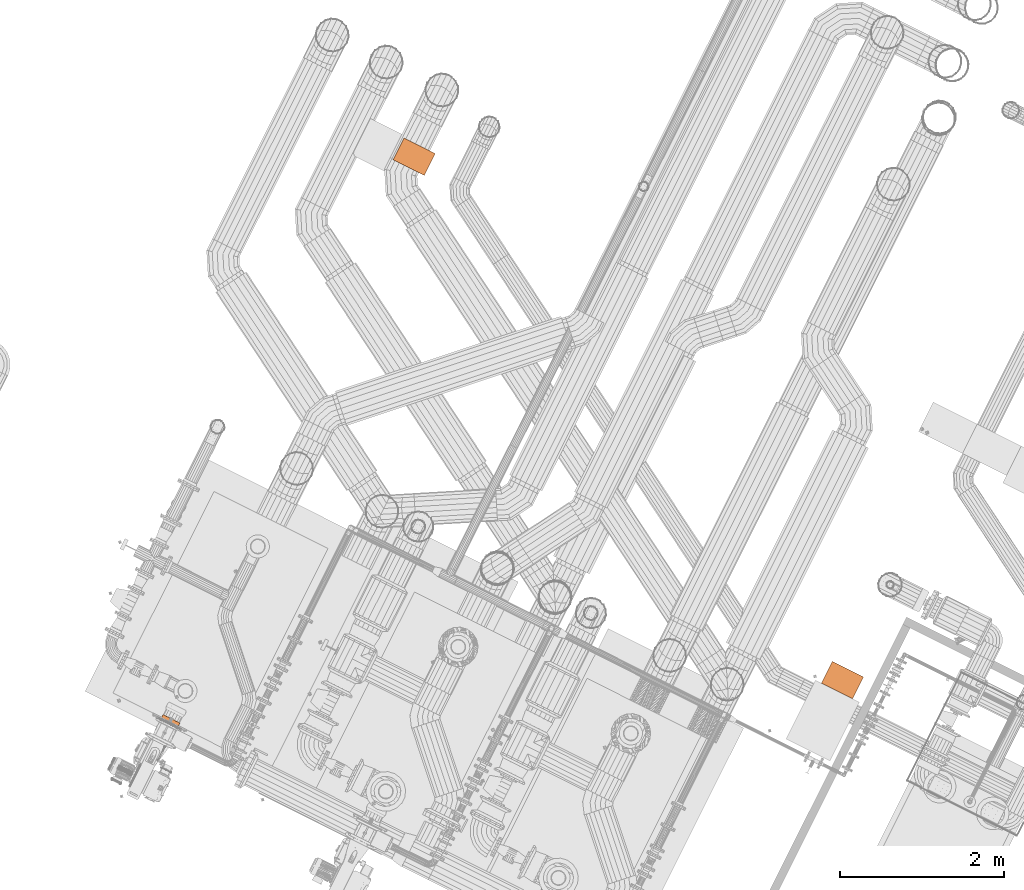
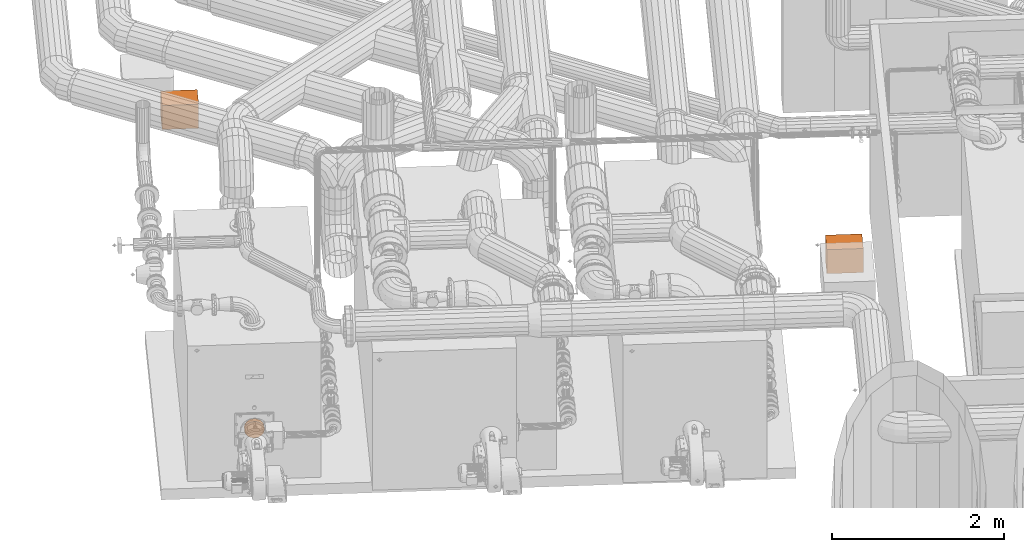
# One storey, part 191 of 206: 3 proxies.
"""IFC2X3 building model written with IfcOpenShell, lengths in metres."""

import ifcopenshell
import ifcopenshell.guid

model = None  # the IFC model being written
_history = None  # IfcOwnerHistory: only IFC2X3 demands one
_inside = {}  # id of a spatial element -> (the spatial element, [elements in it])
_under = {}  # id of a project, library or spatial element -> (it, [spatial elements below it])
_declared = {}  # id of a project -> (the project, [libraries it declares])
_typed = {}  # id of a type object -> (the type object, [elements of that type])
_made_of = {}  # id of a material, layer set ... -> (it, [elements and type objects made of it])


def new_model(schema):
    """Start an empty IFC model of exactly this schema.

    Asked for "IFC4X3", IfcOpenShell would pick the latest addendum, in which some entities
    have other attributes; the version numbers below select the first issue.
    IFC2X3 requires an IfcOwnerHistory on every rooted entity: one is made here for all.
    """
    global model, _history
    if schema == "IFC4X3":
        model = ifcopenshell.file(schema_version=(4, 3, 0, 0))
    else:
        model = ifcopenshell.file(schema=schema)
    _inside.clear()
    _under.clear()
    _declared.clear()
    _typed.clear()
    _made_of.clear()
    _history = None
    if model.schema == "IFC2X3":
        org = make("IfcOrganization", Name="unknown")
        user = make(
            "IfcPersonAndOrganization",
            ThePerson=make("IfcPerson", FamilyName="unknown"),
            TheOrganization=org,
        )
        app = make(
            "IfcApplication",
            ApplicationDeveloper=org,
            Version="unknown",
            ApplicationFullName="unknown",
            ApplicationIdentifier="unknown",
        )
        _history = make(
            "IfcOwnerHistory",
            OwningUser=user,
            OwningApplication=app,
            ChangeAction="ADDED",
            CreationDate=0,
        )
    return model


def make(cls, **values):
    """One entity of the class cls with the attributes given. An attribute that is None is left unset."""
    return model.create_entity(
        cls, **{name: value for name, value in values.items() if value is not None}
    )


def rooted(cls, **values):
    """An entity with a GlobalId (a new one), such as an element, a storey or a relation."""
    return make(cls, GlobalId=ifcopenshell.guid.new(), OwnerHistory=_history, **values)


def si_unit(unit_type, name, prefix=None):
    """IfcSIUnit, for example si_unit("LENGTHUNIT", "METRE", prefix="MILLI")."""
    return make("IfcSIUnit", UnitType=unit_type, Prefix=prefix, Name=name)


def derived_unit(unit_type, elements):
    """IfcDerivedUnit: a product of units, each with its exponent."""
    return make(
        "IfcDerivedUnit",
        Elements=[
            make("IfcDerivedUnitElement", Unit=unit, Exponent=power)
            for unit, power in elements
        ],
        UnitType=unit_type,
    )


def assignment(units):
    """IfcUnitAssignment: the units of a project."""
    return None if units is None else make("IfcUnitAssignment", Units=units)


def point(xyz):
    """IfcCartesianPoint."""
    return None if xyz is None else make("IfcCartesianPoint", Coordinates=xyz)


def direction(xyz):
    """IfcDirection."""
    return None if xyz is None else make("IfcDirection", DirectionRatios=xyz)


def frame(location, z_axis=None, x_axis=None):
    """IfcAxis2Placement3D, a coordinate frame: its origin and axes. An axis left out is left unset."""
    return make(
        "IfcAxis2Placement3D",
        Location=point(location),
        Axis=direction(z_axis),
        RefDirection=direction(x_axis),
    )


def origin():
    """The frame at (0, 0, 0) with its axes left unset."""
    return frame((0.0, 0.0, 0.0))


def place(relative_to, where):
    """IfcLocalPlacement: puts the frame where relative to a parent placement (None: the world)."""
    return make(
        "IfcLocalPlacement", PlacementRelTo=relative_to, RelativePlacement=where
    )


def context(
    kind, dimensions, precision=None, world=None, true_north=None, identifier=None
):
    """IfcGeometricRepresentationContext, for example the 3D "Model" context."""
    return make(
        "IfcGeometricRepresentationContext",
        ContextIdentifier=identifier,
        ContextType=kind,
        CoordinateSpaceDimension=dimensions,
        Precision=precision,
        WorldCoordinateSystem=world,
        TrueNorth=true_north,
    )


def subcontext(parent, identifier, kind, view, scale=None):
    """IfcGeometricRepresentationSubContext, for example "Body" below "Model"."""
    return make(
        "IfcGeometricRepresentationSubContext",
        ContextIdentifier=identifier,
        ContextType=kind,
        ParentContext=parent,
        TargetScale=scale,
        TargetView=view,
    )


def project(units=None, contexts=None):
    """IfcProject with its units and contexts."""
    return rooted(
        "IfcProject",
        Name="project",
        RepresentationContexts=contexts,
        UnitsInContext=assignment(units),
    )


def spatial(cls, under=None, at=None, **own):
    """A site, building, storey or space (cls), placed at a placement, below another one or the project."""
    s = rooted(cls, ObjectPlacement=at, **own)
    if under is not None:
        _under.setdefault(under.id(), (under, []))[1].append(s)
    return s


def faces_of(points, faces, orient=None, outer=None):
    """IfcFace entities. A face is a list of loops; a loop is a list of indices into points, from 0.

    orient and outer hold one flag for each loop. By default every Orientation is true, the
    first loop of a face is its IfcFaceOuterBound and the others are IfcFaceBound.
    """
    made = []
    for i, loops in enumerate(faces):
        bounds = []
        for j, loop in enumerate(loops):
            is_outer = j == 0 if outer is None else outer[i][j]
            bounds.append(
                make(
                    "IfcFaceOuterBound" if is_outer else "IfcFaceBound",
                    Bound=make("IfcPolyLoop", Polygon=[points[k] for k in loop]),
                    Orientation=True if orient is None else orient[i][j],
                )
            )
        made.append(make("IfcFace", Bounds=bounds))
    return made


def faceted_brep(points, faces, orient=None, outer=None, voids=None):
    """IfcFacetedBrep: a solid bounded by flat faces; with voids (closed shells), ...WithVoids."""
    shared = [point(p) for p in points]
    hull = make("IfcClosedShell", CfsFaces=faces_of(shared, faces, orient, outer))
    if voids is None:
        return make("IfcFacetedBrep", Outer=hull)
    return make(
        "IfcFacetedBrepWithVoids",
        Outer=hull,
        Voids=[
            make(cls, CfsFaces=faces_of(shared, fs, o, b)) for cls, fs, o, b in voids
        ],
    )


def shape(context_of_items, identifier, shape_type, items):
    """IfcShapeRepresentation: the items that make up one representation, for example the "Body"."""
    return make(
        "IfcShapeRepresentation",
        ContextOfItems=context_of_items,
        RepresentationIdentifier=identifier,
        RepresentationType=shape_type,
        Items=items,
    )


def source(mapping_origin, context_of_items, identifier, shape_type, items):
    """IfcRepresentationMap: a shape defined once, which mapped items show again and again."""
    return make(
        "IfcRepresentationMap",
        MappingOrigin=mapping_origin,
        MappedRepresentation=shape(context_of_items, identifier, shape_type, items),
    )


def transform(
    local_origin,
    x_axis=None,
    y_axis=None,
    z_axis=None,
    scale=None,
    scale2=None,
    scale3=None,
    uniform=True,
):
    """IfcCartesianTransformationOperator3D, or its non-uniform kind. x_axis, y_axis, z_axis: its Axis1, 2, 3."""
    if uniform:
        return make(
            "IfcCartesianTransformationOperator3D",
            Axis1=direction(x_axis),
            Axis2=direction(y_axis),
            LocalOrigin=point(local_origin),
            Scale=scale,
            Axis3=direction(z_axis),
        )
    return make(
        "IfcCartesianTransformationOperator3DnonUniform",
        Axis1=direction(x_axis),
        Axis2=direction(y_axis),
        LocalOrigin=point(local_origin),
        Scale=scale,
        Axis3=direction(z_axis),
        Scale2=scale2,
        Scale3=scale3,
    )


def mapped(mapping_source, mapping_target):
    """IfcMappedItem: shows the shape of a source again, moved by a transform."""
    return make(
        "IfcMappedItem", MappingSource=mapping_source, MappingTarget=mapping_target
    )


def material(Name=None, Category=None):
    """IfcMaterial."""
    return make("IfcMaterial", Name=Name, Category=Category)


def made_of(thing, what):
    """Note that an element or type object is made of a material, layer set ...; save() writes the relation."""
    if what is not None:
        _made_of.setdefault(what.id(), (what, []))[1].append(thing)
    return thing


def type_object(cls, material=None, **own):
    """A type object (cls), such as IfcWallType, which elements share."""
    return made_of(rooted(cls, **own), material)


def type_shapes(of_type, sources):
    """Give a type object the sources (RepresentationMaps) that its elements show as mapped items."""
    of_type.RepresentationMaps = sources


def element(
    cls,
    number,
    at=None,
    inside=None,
    cuts=None,
    type_object=None,
    material=None,
    context=None,
    identifier="Body",
    shape_type=None,
    held_by="IfcProductDefinitionShape",
    body=None,
    shapes=None,
    **own,
):
    """One element of the class cls, such as IfcWall. Its Tag is "e" and its number.

    at: its placement. inside: the storey or other place that contains it. cuts: it is an
    opening in that element (IfcRelVoidsElement). A single representation is given by context,
    identifier, shape_type and body (its items); several are given by shapes. held_by: the class
    of the entity that holds the representations. save() writes the other relations.
    """
    e = rooted(cls, Tag="e%d" % number, ObjectPlacement=at, **own)
    if body is not None:
        shapes = [shape(context, identifier, shape_type, body)]
    if shapes is not None:
        e.Representation = make(held_by, Representations=shapes)
    if inside is not None:
        _inside.setdefault(inside.id(), (inside, []))[1].append(e)
    if cuts is not None:
        rooted(
            "IfcRelVoidsElement", RelatingBuildingElement=cuts, RelatedOpeningElement=e
        )
    if type_object is not None:
        _typed.setdefault(type_object.id(), (type_object, []))[1].append(e)
    return made_of(e, material)


def aggregate(whole, parts):
    """IfcRelAggregates: a whole, such as a stair, and the parts it consists of."""
    return rooted("IfcRelAggregates", RelatingObject=whole, RelatedObjects=parts)


def save(model, path):
    """Write the relations noted so far, then the file.

    IfcRelAggregates (storeys below a building ...), IfcRelContainedInSpatialStructure (elements
    in a storey), IfcRelDefinesByType, IfcRelAssociatesMaterial and IfcRelDeclares: one each for
    every whole, place, type object, material and project.
    """
    for whole, parts in _under.values():
        aggregate(whole, parts)
    for where, things in _inside.values():
        rooted(
            "IfcRelContainedInSpatialStructure",
            RelatedElements=things,
            RelatingStructure=where,
        )
    for kind, things in _typed.values():
        rooted("IfcRelDefinesByType", RelatedObjects=things, RelatingType=kind)
    for what, things in _made_of.values():
        rooted("IfcRelAssociatesMaterial", RelatedObjects=things, RelatingMaterial=what)
    for by, libraries in _declared.values():
        rooted("IfcRelDeclares", RelatingContext=by, RelatedDefinitions=libraries)
    model.write(path)


model = new_model("IFC2X3")

# Units and contexts
model_context = context("Model", 3, precision=5.2338327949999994e-05, world=origin(), true_north=direction((0.0, 1.0)))
body_context = subcontext(model_context, "Body", "Model", "MODEL_VIEW")
ifc_project = project(units=[si_unit("LENGTHUNIT", "METRE"), si_unit("AREAUNIT", "SQUARE_METRE"), si_unit("VOLUMEUNIT", "CUBIC_METRE"), si_unit("MASSUNIT", "GRAM", prefix="KILO"), si_unit("PLANEANGLEUNIT", "RADIAN"), derived_unit("THERMALTRANSMITTANCEUNIT", [(si_unit("MASSUNIT", "GRAM", prefix="KILO"), 1), (si_unit("THERMODYNAMICTEMPERATUREUNIT", "KELVIN"), -1), (si_unit("TIMEUNIT", "SECOND"), -3)])], contexts=[model_context])

# Site, building, storey
site_placement = place(None, frame((0.0, 0.0, 0.0), z_axis=(0.0, 0.0, 1.0), x_axis=(0.8939966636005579, -0.4480736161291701, 0.0)))
site = spatial("IfcSite", under=ifc_project, at=site_placement, Name="Default", CompositionType="ELEMENT")
building_placement = place(site_placement, origin())
building = spatial("IfcBuilding", under=site, at=building_placement, CompositionType="ELEMENT")
storey_placement = place(building_placement, origin())
storey = spatial("IfcBuildingStorey", under=building, at=storey_placement, Name="Erdgeschoss", CompositionType="ELEMENT", Elevation=0.0)

# Proxies
ifc_material_1 = material(Name="IfcSurfaceStyle #649647")
building_element_proxy_type_1 = type_object("IfcBuildingElementProxyType", Name="BuildingElementProxy 123:BuildingElementProxy 123", PredefinedType="NOTDEFINED", material=ifc_material_1)
shared_shape_1 = source(origin(), body_context, "Body", "Brep", [
    faceted_brep([(21.44094787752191, 4.955958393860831, 0.9877150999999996), (21.395900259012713, 4.955958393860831, 0.9787545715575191), (21.48599549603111, 4.955958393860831, 0.978754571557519), (21.524185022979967, 4.955958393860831, 0.9532371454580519), (21.35771073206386, 4.955958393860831, 0.9532371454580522), (21.549702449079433, 4.955958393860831, 0.9150476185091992), (21.332193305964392, 4.955958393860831, 0.9150476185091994), (21.558662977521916, 4.955958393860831, 0.8699999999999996), (21.323232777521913, 4.955958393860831, 0.8699999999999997), (21.54970244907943, 4.955958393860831, 0.8249523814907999), (21.332193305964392, 4.955958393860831, 0.8249523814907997), (21.52418502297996, 4.955958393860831, 0.7867628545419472), (21.357710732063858, 4.955958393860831, 0.7867628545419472), (21.48599549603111, 4.955958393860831, 0.7612454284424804), (21.395900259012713, 4.955958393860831, 0.7612454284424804), (21.44094787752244, 4.955958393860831, 0.7522848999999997), (21.464562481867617, 5.015028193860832, 0.9836397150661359), (21.44094787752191, 5.015028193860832, 0.9860673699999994), (21.433027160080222, 5.015028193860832, 0.9857967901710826), (21.40207928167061, 5.015028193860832, 0.9793657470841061), (21.37401410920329, 5.015028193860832, 0.9648235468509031), (21.35091310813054, 5.015028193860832, 0.9432487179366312), (21.334489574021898, 5.015028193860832, 0.9162413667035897), (21.32596156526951, 5.015028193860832, 0.8858045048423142), (21.32596156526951, 5.015028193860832, 0.854195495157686), (21.334489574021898, 5.015028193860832, 0.8237586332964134), (21.350913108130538, 5.015028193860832, 0.7967512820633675), (21.374014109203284, 5.015028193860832, 0.7751764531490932), (21.402079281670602, 5.015028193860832, 0.7606342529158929), (21.43302716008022, 5.015028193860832, 0.7542032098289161), (21.440947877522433, 5.015028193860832, 0.7539326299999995), (21.464562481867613, 5.015028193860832, 0.7563602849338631), (21.494346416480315, 5.015028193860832, 0.7669454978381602), (21.520170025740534, 5.015028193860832, 0.7851737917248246), (21.540118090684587, 5.015028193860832, 0.8096932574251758), (21.552711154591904, 5.015028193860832, 0.8386853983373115), (21.556744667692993, 5.015028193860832, 0.862079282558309), (21.555934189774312, 5.015028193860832, 0.8858045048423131), (21.55031362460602, 5.015028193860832, 0.9088685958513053), (21.54011809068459, 5.015028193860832, 0.930306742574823), (21.520170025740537, 5.015028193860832, 0.954826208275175), (21.49434641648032, 5.015028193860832, 0.9730545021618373), (21.520147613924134, 5.0153258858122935, 0.9548022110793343), (21.540090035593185, 5.0153258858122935, 0.9302896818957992), (21.5398631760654, 5.016011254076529, 0.930151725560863), (21.550032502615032, 5.0160112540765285, 0.9087686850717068), (21.549565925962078, 5.016554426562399, 0.9086028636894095), (21.551947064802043, 5.016554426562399, 0.9011005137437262), (21.551313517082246, 5.016882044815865, 0.9009230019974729), (21.554496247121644, 5.016882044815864, 0.8856068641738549), (21.553954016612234, 5.01695839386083, 0.885532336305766), (21.55556378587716, 5.016882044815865, 0.869999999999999), (21.554750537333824, 5.016958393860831, 0.862215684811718), (21.55529658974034, 5.016882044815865, 0.8621783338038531), (21.55078648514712, 5.01695839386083, 0.8392246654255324), (21.551313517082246, 5.016882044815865, 0.8390769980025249), (21.538410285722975, 5.016958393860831, 0.8107317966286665), (21.538877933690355, 5.016882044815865, 0.8104474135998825), (21.518805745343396, 5.01695839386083, 0.7866345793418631), (21.519179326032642, 5.0168820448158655, 0.7862345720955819), (21.493426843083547, 5.01695839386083, 0.7687201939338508), (21.493678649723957, 5.016882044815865, 0.7682342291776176), (21.464155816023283, 5.01695839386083, 0.7583172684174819), (21.464267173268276, 5.0168820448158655, 0.7577813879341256), (21.44094787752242, 5.01695839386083, 0.75593142), (21.440947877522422, 5.016882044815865, 0.7553840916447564), (21.433163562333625, 5.016958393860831, 0.7561973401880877), (21.433126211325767, 5.0168820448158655, 0.7556512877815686), (21.402748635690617, 5.016958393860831, 0.7625176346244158), (21.40256534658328, 5.016882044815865, 0.762001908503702), (21.375166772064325, 5.01695839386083, 0.7768094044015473), (21.37485113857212, 5.0168820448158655, 0.776362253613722), (21.35246359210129, 5.016958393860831, 0.7980126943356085), (21.352039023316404, 5.0168820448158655, 0.7976672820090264), (21.336322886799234, 5.016958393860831, 0.8245549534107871), (21.33582087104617, 5.0168820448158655, 0.8243368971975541), (21.32794173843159, 5.016958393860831, 0.854467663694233), (21.327399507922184, 5.0168820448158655, 0.8543931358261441), (21.327941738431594, 5.016958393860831, 0.8855323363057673), (21.327399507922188, 5.016882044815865, 0.8856068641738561), (21.336322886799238, 5.016958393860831, 0.9154450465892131), (21.335820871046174, 5.0168820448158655, 0.915663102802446), (21.352463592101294, 5.016958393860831, 0.9419873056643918), (21.352039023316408, 5.0168820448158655, 0.942332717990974), (21.37516677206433, 5.016958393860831, 0.9631905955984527), (21.374851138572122, 5.016882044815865, 0.963637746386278), (21.402748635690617, 5.016958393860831, 0.9774823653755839), (21.402565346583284, 5.0168820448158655, 0.9779980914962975), (21.433163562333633, 5.016958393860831, 0.9838026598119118), (21.43312621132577, 5.016882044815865, 0.984348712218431), (21.44094787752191, 5.01695839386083, 0.9840685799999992), (21.44094787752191, 5.0168820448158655, 0.984615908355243), (21.464155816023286, 5.016958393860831, 0.9816827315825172), (21.46426717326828, 5.016882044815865, 0.9822186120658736), (21.49342684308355, 5.016958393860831, 0.9712798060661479), (21.493678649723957, 5.016882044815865, 0.9717657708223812), (21.518805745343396, 5.016958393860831, 0.9533654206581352), (21.519179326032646, 5.016882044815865, 0.9537654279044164), (21.53841028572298, 5.016958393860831, 0.9292682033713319), (21.538877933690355, 5.016882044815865, 0.9295525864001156), (21.5484302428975, 5.016958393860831, 0.9081992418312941), (21.54894596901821, 5.016882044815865, 0.9083825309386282), (21.494331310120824, 5.0153258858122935, 0.9730253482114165), (21.4645558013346, 5.0153258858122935, 0.9836075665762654), (21.44094787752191, 5.0153258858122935, 0.9860345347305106), (21.433029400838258, 5.0153258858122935, 0.9857640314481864), (21.40209027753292, 5.015325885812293, 0.9793348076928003), (21.374033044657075, 5.0153258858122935, 0.9647967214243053), (21.35093857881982, 5.0153258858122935, 0.9432279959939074), (21.334519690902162, 5.0153258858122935, 0.9162282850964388), (21.325994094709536, 5.0153258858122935, 0.885800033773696), (21.32599409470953, 5.0153258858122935, 0.8541999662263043), (21.334519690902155, 5.0153258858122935, 0.8237717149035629), (21.35093857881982, 5.0153258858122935, 0.7967720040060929), (21.37403304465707, 5.0153258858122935, 0.7752032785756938), (21.402090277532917, 5.0153258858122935, 0.7606651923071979), (21.433029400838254, 5.0153258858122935, 0.7542359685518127), (21.440947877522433, 5.0153258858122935, 0.7539654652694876), (21.464555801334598, 5.0153258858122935, 0.7563924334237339), (21.494331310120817, 5.0153258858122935, 0.7669746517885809), (21.52014761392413, 5.0153258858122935, 0.7851977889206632), (21.540090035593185, 5.0153258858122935, 0.809710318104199), (21.55267953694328, 5.0153258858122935, 0.8386942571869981), (21.556711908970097, 5.0153258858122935, 0.8620815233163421), (21.556982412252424, 5.0153258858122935, 0.869999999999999), (21.55644701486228, 5.016011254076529, 0.8620996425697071), (21.556716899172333, 5.016011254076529, 0.8699999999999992), (21.555953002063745, 5.0165544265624, 0.8621334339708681), (21.556221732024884, 5.016554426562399, 0.8699999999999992), (21.55028268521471, 5.0153258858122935, 0.9088575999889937), (21.552423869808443, 5.016011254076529, 0.9012341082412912), (21.555148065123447, 5.0165544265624, 0.8856964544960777), (21.55267953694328, 5.0153258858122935, 0.9013057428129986), (21.555638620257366, 5.016011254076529, 0.8857638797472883), (21.555901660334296, 5.0153258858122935, 0.8858000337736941), (21.55194706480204, 5.016554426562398, 0.8388994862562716), (21.53944009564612, 5.016554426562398, 0.8101055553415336), (21.519628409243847, 5.016554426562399, 0.7857537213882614), (21.493981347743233, 5.016554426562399, 0.7676500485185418), (21.464401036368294, 5.016554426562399, 0.7571372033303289), (21.440947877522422, 5.0165544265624, 0.7547261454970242), (21.43308131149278, 5.016554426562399, 0.7549948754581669), (21.402345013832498, 5.016554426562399, 0.7613819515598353), (21.374471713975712, 5.0165544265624, 0.7758247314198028), (21.351528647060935, 5.016554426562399, 0.7972520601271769), (21.33521739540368, 5.016554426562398, 0.824074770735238), (21.326747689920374, 5.0165544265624, 0.854303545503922), (21.326747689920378, 5.0165544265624, 0.8856964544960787), (21.335217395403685, 5.0165544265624, 0.9159252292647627), (21.351528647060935, 5.016554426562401, 0.9427479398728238), (21.374471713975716, 5.0165544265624, 0.9641752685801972), (21.4023450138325, 5.016554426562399, 0.9786180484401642), (21.433081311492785, 5.016554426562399, 0.9850051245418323), (21.44094787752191, 5.016554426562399, 0.9852738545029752), (21.464401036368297, 5.016554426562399, 0.9828627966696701), (21.49398134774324, 5.016554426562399, 0.9723499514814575), (21.519628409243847, 5.016554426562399, 0.9542462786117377), (21.539440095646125, 5.016554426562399, 0.9298944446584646), (21.552423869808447, 5.016011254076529, 0.8387658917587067), (21.539863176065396, 5.01601125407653, 0.8098482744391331), (21.51996638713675, 5.016011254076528, 0.7853918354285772), (21.494209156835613, 5.016011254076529, 0.7672103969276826), (21.46450178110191, 5.016011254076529, 0.7566523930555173), (21.440947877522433, 5.016011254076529, 0.7542309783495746), (21.433047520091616, 5.016011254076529, 0.7545008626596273), (21.402179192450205, 5.016011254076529, 0.7609153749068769), (21.37418616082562, 5.016011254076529, 0.7754201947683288), (21.35114454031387, 5.016011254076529, 0.7969395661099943), (21.33476322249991, 5.01601125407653, 0.8238774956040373), (21.32625713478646, 5.01601125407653, 0.8542361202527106), (21.326257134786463, 5.016011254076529, 0.8857638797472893), (21.334763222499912, 5.016011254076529, 0.9161225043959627), (21.351144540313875, 5.01601125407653, 0.9430604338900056), (21.374186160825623, 5.016011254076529, 0.9645798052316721), (21.40217919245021, 5.016011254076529, 0.9790846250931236), (21.433047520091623, 5.016011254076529, 0.9854991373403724), (21.44094787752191, 5.016011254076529, 0.9857690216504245), (21.46450178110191, 5.016011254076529, 0.9833476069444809), (21.494209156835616, 5.0160112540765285, 0.9727896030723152), (21.519966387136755, 5.016011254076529, 0.9546081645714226)], [[[0, 1, 2]], [[2, 1, 3]], [[1, 4, 3]], [[3, 4, 5]], [[4, 6, 5]], [[5, 6, 7]], [[6, 8, 7]], [[7, 8, 9]], [[8, 10, 9]], [[9, 10, 11]], [[10, 12, 11]], [[11, 12, 13]], [[12, 14, 13]], [[13, 14, 15]], [[16, 17, 0]], [[0, 17, 18]], [[0, 18, 19]], [[0, 19, 1]], [[1, 19, 20]], [[1, 20, 4]], [[4, 20, 21]], [[4, 21, 6]], [[6, 21, 22]], [[6, 22, 23]], [[6, 23, 8]], [[8, 23, 24]], [[8, 24, 10]], [[10, 24, 25]], [[10, 25, 26]], [[10, 26, 12]], [[12, 26, 27]], [[12, 27, 14]], [[14, 27, 28]], [[14, 28, 29]], [[14, 29, 15]], [[15, 29, 30]], [[15, 30, 31]], [[15, 31, 13]], [[13, 31, 32]], [[13, 32, 11]], [[11, 32, 33]], [[11, 33, 34]], [[11, 34, 9]], [[9, 34, 35]], [[9, 35, 7]], [[7, 35, 36]], [[7, 36, 37]], [[7, 37, 5]], [[5, 37, 38]], [[5, 38, 39]], [[5, 39, 3]], [[3, 39, 40]], [[3, 40, 41]], [[3, 41, 2]], [[2, 41, 16]], [[2, 16, 0]], [[41, 40, 42]], [[42, 40, 43]], [[42, 43, 44]], [[44, 43, 45]], [[44, 45, 46]], [[46, 45, 47]], [[46, 47, 48]], [[48, 47, 49]], [[48, 49, 50]], [[50, 49, 51]], [[50, 51, 52]], [[52, 51, 53]], [[52, 53, 54]], [[54, 53, 55]], [[54, 55, 56]], [[56, 55, 57]], [[56, 57, 58]], [[58, 57, 59]], [[58, 59, 60]], [[60, 59, 61]], [[60, 61, 62]], [[62, 61, 63]], [[62, 63, 64]], [[64, 63, 65]], [[64, 65, 66]], [[66, 65, 67]], [[66, 67, 68]], [[68, 67, 69]], [[68, 69, 70]], [[70, 69, 71]], [[70, 71, 72]], [[72, 71, 73]], [[72, 73, 74]], [[74, 73, 75]], [[74, 75, 76]], [[76, 75, 77]], [[76, 77, 78]], [[78, 77, 79]], [[78, 79, 80]], [[80, 79, 81]], [[80, 81, 82]], [[82, 81, 83]], [[82, 83, 84]], [[84, 83, 85]], [[84, 85, 86]], [[86, 85, 87]], [[86, 87, 88]], [[88, 87, 89]], [[88, 89, 90]], [[90, 89, 91]], [[90, 91, 92]], [[92, 91, 93]], [[92, 93, 94]], [[94, 93, 95]], [[94, 95, 96]], [[96, 95, 97]], [[96, 97, 98]], [[98, 97, 99]], [[98, 99, 100]], [[100, 99, 101]], [[100, 101, 48]], [[48, 101, 46]], [[50, 100, 48]], [[41, 102, 16]], [[16, 102, 103]], [[16, 103, 17]], [[17, 103, 104]], [[17, 104, 18]], [[18, 104, 105]], [[18, 105, 19]], [[19, 105, 106]], [[19, 106, 20]], [[20, 106, 107]], [[20, 107, 21]], [[21, 107, 108]], [[21, 108, 22]], [[22, 108, 109]], [[22, 109, 23]], [[23, 109, 110]], [[23, 110, 24]], [[24, 110, 111]], [[24, 111, 25]], [[25, 111, 112]], [[25, 112, 26]], [[26, 112, 113]], [[26, 113, 27]], [[27, 113, 114]], [[27, 114, 28]], [[28, 114, 115]], [[28, 115, 29]], [[29, 115, 116]], [[29, 116, 30]], [[30, 116, 117]], [[30, 117, 31]], [[31, 117, 118]], [[31, 118, 32]], [[32, 118, 119]], [[32, 119, 33]], [[33, 119, 120]], [[33, 120, 34]], [[34, 120, 121]], [[34, 121, 35]], [[35, 121, 122]], [[35, 122, 36]], [[36, 122, 123]], [[36, 123, 124]], [[124, 123, 125]], [[124, 125, 126]], [[126, 125, 127]], [[126, 127, 128]], [[128, 127, 53]], [[128, 53, 51]], [[40, 39, 43]], [[43, 39, 129]], [[43, 129, 45]], [[45, 129, 130]], [[45, 130, 47]], [[47, 130, 131]], [[47, 131, 49]], [[49, 131, 51]], [[39, 38, 129]], [[129, 38, 132]], [[129, 132, 130]], [[130, 132, 133]], [[130, 133, 131]], [[131, 133, 128]], [[131, 128, 51]], [[38, 37, 132]], [[132, 37, 134]], [[132, 134, 133]], [[133, 134, 126]], [[133, 126, 128]], [[134, 37, 124]], [[124, 37, 36]], [[124, 126, 134]], [[53, 127, 55]], [[55, 127, 135]], [[55, 135, 57]], [[57, 135, 136]], [[57, 136, 59]], [[59, 136, 137]], [[59, 137, 61]], [[61, 137, 138]], [[61, 138, 63]], [[63, 138, 139]], [[63, 139, 65]], [[65, 139, 140]], [[65, 140, 67]], [[67, 140, 141]], [[67, 141, 69]], [[69, 141, 142]], [[69, 142, 71]], [[71, 142, 143]], [[71, 143, 73]], [[73, 143, 144]], [[73, 144, 75]], [[75, 144, 145]], [[75, 145, 77]], [[77, 145, 146]], [[77, 146, 79]], [[79, 146, 147]], [[79, 147, 81]], [[81, 147, 148]], [[81, 148, 83]], [[83, 148, 149]], [[83, 149, 85]], [[85, 149, 150]], [[85, 150, 87]], [[87, 150, 151]], [[87, 151, 89]], [[89, 151, 152]], [[89, 152, 91]], [[91, 152, 153]], [[91, 153, 93]], [[93, 153, 154]], [[93, 154, 95]], [[95, 154, 155]], [[95, 155, 97]], [[97, 155, 156]], [[97, 156, 99]], [[99, 156, 157]], [[99, 157, 101]], [[101, 157, 46]], [[127, 125, 135]], [[135, 125, 158]], [[135, 158, 136]], [[136, 158, 159]], [[136, 159, 137]], [[137, 159, 160]], [[137, 160, 138]], [[138, 160, 161]], [[138, 161, 139]], [[139, 161, 162]], [[139, 162, 140]], [[140, 162, 163]], [[140, 163, 141]], [[141, 163, 164]], [[141, 164, 142]], [[142, 164, 165]], [[142, 165, 143]], [[143, 165, 166]], [[143, 166, 144]], [[144, 166, 167]], [[144, 167, 145]], [[145, 167, 168]], [[145, 168, 146]], [[146, 168, 169]], [[146, 169, 147]], [[147, 169, 170]], [[147, 170, 148]], [[148, 170, 171]], [[148, 171, 149]], [[149, 171, 172]], [[149, 172, 150]], [[150, 172, 173]], [[150, 173, 151]], [[151, 173, 174]], [[151, 174, 152]], [[152, 174, 175]], [[152, 175, 153]], [[153, 175, 176]], [[153, 176, 154]], [[154, 176, 177]], [[154, 177, 155]], [[155, 177, 178]], [[155, 178, 156]], [[156, 178, 179]], [[156, 179, 157]], [[157, 179, 44]], [[157, 44, 46]], [[125, 123, 158]], [[158, 123, 122]], [[158, 122, 159]], [[159, 122, 121]], [[159, 121, 160]], [[160, 121, 120]], [[160, 120, 161]], [[161, 120, 119]], [[161, 119, 162]], [[162, 119, 118]], [[162, 118, 163]], [[163, 118, 117]], [[163, 117, 164]], [[164, 117, 116]], [[164, 116, 165]], [[165, 116, 115]], [[165, 115, 166]], [[166, 115, 114]], [[166, 114, 167]], [[167, 114, 113]], [[167, 113, 168]], [[168, 113, 112]], [[168, 112, 169]], [[169, 112, 111]], [[169, 111, 170]], [[170, 111, 110]], [[170, 110, 171]], [[171, 110, 109]], [[171, 109, 172]], [[172, 109, 108]], [[172, 108, 173]], [[173, 108, 107]], [[173, 107, 174]], [[174, 107, 106]], [[174, 106, 175]], [[175, 106, 105]], [[175, 105, 176]], [[176, 105, 104]], [[176, 104, 177]], [[177, 104, 103]], [[177, 103, 178]], [[178, 103, 102]], [[178, 102, 179]], [[179, 102, 42]], [[179, 42, 44]], [[102, 41, 42]], [[90, 92, 88]], [[88, 92, 86]], [[92, 94, 86]], [[86, 94, 84]], [[94, 96, 84]], [[84, 96, 82]], [[96, 98, 82]], [[82, 98, 80]], [[98, 100, 80]], [[80, 100, 78]], [[100, 50, 78]], [[78, 50, 76]], [[50, 52, 76]], [[76, 52, 54]], [[76, 54, 74]], [[74, 54, 56]], [[74, 56, 72]], [[72, 56, 58]], [[72, 58, 70]], [[70, 58, 60]], [[70, 60, 68]], [[68, 60, 62]], [[68, 62, 66]], [[66, 62, 64]]]),
])
type_shapes(building_element_proxy_type_1, [shared_shape_1])
proxy_1_placement = place(storey_placement, origin())
element("IfcBuildingElementProxy", 1, at=proxy_1_placement, inside=storey, type_object=building_element_proxy_type_1, material=ifc_material_1, Name="BuildingElementProxy 123", context=body_context, shape_type="MappedRepresentation", body=[
    mapped(shared_shape_1, transform((0.0, 0.0, 0.0), scale=1.0)),
])
ifc_material_2 = material(Name="IfcSurfaceStyle #270045")
building_element_proxy_type_2 = type_object("IfcBuildingElementProxyType", Name="Quader 851191:Quader 851191", PredefinedType="NOTDEFINED", material=ifc_material_2)
shared_shape_2 = source(origin(), body_context, "Body", "Brep", [
    faceted_brep([(20.80237856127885, 12.322854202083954, 0.0), (21.22837856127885, 12.322854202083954, 0.0), (21.22837856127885, 12.322854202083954, 0.34), (20.80237856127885, 12.322854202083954, 0.34), (21.22837856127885, 12.619854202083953, 0.34), (20.80237856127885, 12.619854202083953, 0.34), (21.22837856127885, 12.619854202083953, 0.0), (20.80237856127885, 12.619854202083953, 0.0)], [[[0, 1, 2, 3]], [[3, 2, 4, 5]], [[5, 4, 6, 7]], [[7, 6, 1, 0]], [[0, 3, 5, 7]], [[6, 4, 2, 1]]]),
])
type_shapes(building_element_proxy_type_2, [shared_shape_2])
proxy_2_placement = place(storey_placement, origin())
element("IfcBuildingElementProxy", 2, at=proxy_2_placement, inside=storey, type_object=building_element_proxy_type_2, material=ifc_material_2, Name="Quader", ObjectType="Quader", context=body_context, shape_type="MappedRepresentation", body=[
    mapped(shared_shape_2, transform((0.0, 0.0, 0.0), scale=1.0)),
])
building_element_proxy_type_3 = type_object("IfcBuildingElementProxyType", Name="Quader 851335:Quader 851335", PredefinedType="NOTDEFINED", material=ifc_material_2)
shared_shape_3 = source(origin(), body_context, "Body", "Brep", [
    faceted_brep([(28.757476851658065, 9.252480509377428, 0.0), (28.331476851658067, 9.252480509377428, 0.0), (28.331476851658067, 9.252480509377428, 0.34), (28.757476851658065, 9.252480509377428, 0.34), (28.331476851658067, 8.955480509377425, 0.34), (28.757476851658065, 8.955480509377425, 0.34), (28.331476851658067, 8.955480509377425, 0.0), (28.757476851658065, 8.955480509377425, 0.0)], [[[0, 1, 2, 3]], [[3, 2, 4, 5]], [[5, 4, 6, 7]], [[7, 6, 1, 0]], [[0, 3, 5, 7]], [[6, 4, 2, 1]]]),
])
type_shapes(building_element_proxy_type_3, [shared_shape_3])
proxy_3_placement = place(storey_placement, origin())
element("IfcBuildingElementProxy", 3, at=proxy_3_placement, inside=storey, type_object=building_element_proxy_type_3, material=ifc_material_2, Name="Quader", ObjectType="Quader", context=body_context, shape_type="MappedRepresentation", body=[
    mapped(shared_shape_3, transform((0.0, 0.0, 0.0), scale=1.0)),
])

save(model, "model.ifc")
